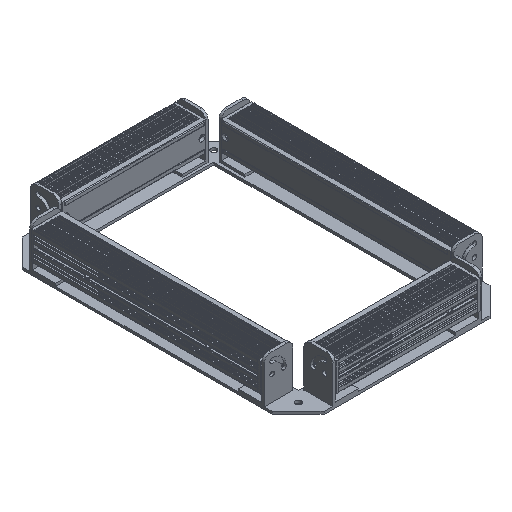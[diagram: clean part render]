
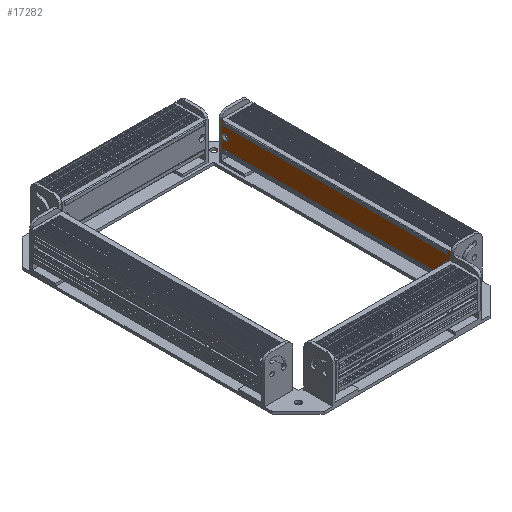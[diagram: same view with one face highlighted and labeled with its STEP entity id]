
A CAD part, isometric view. The second image highlights one B-rep face of the part: STEP entity #17282.
In plain terms, the highlighted planar face has unit normal (-1, 0, 0) as drawn and (0, 1, 0) by its records, which use the part's own axes.
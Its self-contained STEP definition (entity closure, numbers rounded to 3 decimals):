
#13322=DIRECTION('',(-1.,0.,0.));
#13323=VECTOR('',#13322,2.8);
#13324=CARTESIAN_POINT('',(-8.2,11.402,-86.5));
#13325=LINE('',#13324,#13323);
#13326=DIRECTION('',(0.,0.,1.));
#13327=VECTOR('',#13326,2.);
#13328=CARTESIAN_POINT('',(11.,11.402,-88.5));
#13329=LINE('',#13328,#13327);
#13330=DIRECTION('',(-1.,0.,0.));
#13331=VECTOR('',#13330,2.8);
#13332=CARTESIAN_POINT('',(11.,11.402,-86.5));
#13333=LINE('',#13332,#13331);
#13334=DIRECTION('',(0.,0.,-1.));
#13335=VECTOR('',#13334,2.);
#13336=CARTESIAN_POINT('',(-11.,11.402,88.5));
#13337=LINE('',#13336,#13335);
#13338=CARTESIAN_POINT('',(0.,11.402,-85.5));
#13339=DIRECTION('',(0.,1.,0.));
#13340=DIRECTION('',(-1.,0.,0.));
#13341=AXIS2_PLACEMENT_3D('',#13338,#13339,#13340);
#13343=CARTESIAN_POINT('',(0.,11.402,-85.5));
#13344=DIRECTION('',(0.,1.,0.));
#13345=DIRECTION('',(0.,0.,1.));
#13346=AXIS2_PLACEMENT_3D('',#13343,#13344,#13345);
#13348=CARTESIAN_POINT('',(0.,11.402,-85.5));
#13349=DIRECTION('',(0.,1.,0.));
#13350=DIRECTION('',(1.,0.,0.));
#13351=AXIS2_PLACEMENT_3D('',#13348,#13349,#13350);
#13353=CARTESIAN_POINT('',(0.,11.402,-85.5));
#13354=DIRECTION('',(0.,1.,0.));
#13355=DIRECTION('',(0.,0.,-1.));
#13356=AXIS2_PLACEMENT_3D('',#13353,#13354,#13355);
#13358=CARTESIAN_POINT('',(0.,11.402,85.5));
#13359=DIRECTION('',(0.,1.,0.));
#13360=DIRECTION('',(0.,0.,1.));
#13361=AXIS2_PLACEMENT_3D('',#13358,#13359,#13360);
#13363=CARTESIAN_POINT('',(0.,11.402,85.5));
#13364=DIRECTION('',(0.,1.,0.));
#13365=DIRECTION('',(0.,0.,-1.));
#13366=AXIS2_PLACEMENT_3D('',#13363,#13364,#13365);
#13368=DIRECTION('',(0.,0.,1.));
#13369=VECTOR('',#13368,173.);
#13370=CARTESIAN_POINT('',(-8.2,11.402,-86.5));
#13371=LINE('',#13370,#13369);
#13402=DIRECTION('',(-1.,0.,0.));
#13403=VECTOR('',#13402,2.8);
#13404=CARTESIAN_POINT('',(-8.2,11.402,86.5));
#13405=LINE('',#13404,#13403);
#13410=DIRECTION('',(0.,0.,1.));
#13411=VECTOR('',#13410,2.);
#13412=CARTESIAN_POINT('',(-11.,11.402,-88.5));
#13413=LINE('',#13412,#13411);
#13808=DIRECTION('',(1.,0.,0.));
#13809=VECTOR('',#13808,22.);
#13810=CARTESIAN_POINT('',(-11.,11.402,88.5));
#13811=LINE('',#13810,#13809);
#13880=DIRECTION('',(0.,0.,-1.));
#13881=VECTOR('',#13880,2.);
#13882=CARTESIAN_POINT('',(11.,11.402,88.5));
#13883=LINE('',#13882,#13881);
#13990=DIRECTION('',(-1.,0.,0.));
#13991=VECTOR('',#13990,2.8);
#13992=CARTESIAN_POINT('',(11.,11.402,86.5));
#13993=LINE('',#13992,#13991);
#14020=DIRECTION('',(0.,0.,-1.));
#14021=VECTOR('',#14020,173.);
#14022=CARTESIAN_POINT('',(8.2,11.402,86.5));
#14023=LINE('',#14022,#14021);
#14040=DIRECTION('',(-1.,0.,0.));
#14041=VECTOR('',#14040,22.);
#14042=CARTESIAN_POINT('',(11.,11.402,-88.5));
#14043=LINE('',#14042,#14041);
#16309=CARTESIAN_POINT('',(-8.2,11.402,-86.5));
#16310=CARTESIAN_POINT('',(-11.,11.402,-86.5));
#16311=VERTEX_POINT('',#16309);
#16312=VERTEX_POINT('',#16310);
#16323=CARTESIAN_POINT('',(11.,11.402,-86.5));
#16324=CARTESIAN_POINT('',(8.2,11.402,-86.5));
#16325=VERTEX_POINT('',#16323);
#16326=VERTEX_POINT('',#16324);
#16337=CARTESIAN_POINT('',(-8.2,11.402,86.5));
#16338=VERTEX_POINT('',#16337);
#16339=CARTESIAN_POINT('',(-11.,11.402,-88.5));
#16340=VERTEX_POINT('',#16339);
#16341=CARTESIAN_POINT('',(11.,11.402,-88.5));
#16342=VERTEX_POINT('',#16341);
#16343=CARTESIAN_POINT('',(8.2,11.402,86.5));
#16344=VERTEX_POINT('',#16343);
#16345=CARTESIAN_POINT('',(11.,11.402,86.5));
#16346=VERTEX_POINT('',#16345);
#16347=CARTESIAN_POINT('',(11.,11.402,88.5));
#16348=VERTEX_POINT('',#16347);
#16349=CARTESIAN_POINT('',(-11.,11.402,88.5));
#16350=VERTEX_POINT('',#16349);
#16351=CARTESIAN_POINT('',(-11.,11.402,86.5));
#16352=VERTEX_POINT('',#16351);
#16353=CARTESIAN_POINT('',(0.,11.402,-83.1));
#16354=CARTESIAN_POINT('',(2.4,11.402,-85.5));
#16355=VERTEX_POINT('',#16353);
#16356=VERTEX_POINT('',#16354);
#16357=CARTESIAN_POINT('',(-2.4,11.402,-85.5));
#16358=VERTEX_POINT('',#16357);
#16359=CARTESIAN_POINT('',(0.,11.402,-87.9));
#16360=VERTEX_POINT('',#16359);
#16361=CARTESIAN_POINT('',(0.,11.402,87.9));
#16362=CARTESIAN_POINT('',(0.,11.402,83.1));
#16363=VERTEX_POINT('',#16361);
#16364=VERTEX_POINT('',#16362);
#17236=CARTESIAN_POINT('',(8.2,11.402,-86.5));
#17237=DIRECTION('',(0.,1.,0.));
#17238=DIRECTION('',(-1.,0.,0.));
#17239=AXIS2_PLACEMENT_3D('',#17236,#17237,#17238);
#17240=PLANE('',#17239);
#17242=ORIENTED_EDGE('',*,*,#17241,.F.);
#17243=ORIENTED_EDGE('',*,*,#17219,.T.);
#17245=ORIENTED_EDGE('',*,*,#17244,.F.);
#17247=ORIENTED_EDGE('',*,*,#17246,.F.);
#17249=ORIENTED_EDGE('',*,*,#17248,.T.);
#17251=ORIENTED_EDGE('',*,*,#17250,.T.);
#17253=ORIENTED_EDGE('',*,*,#17252,.F.);
#17255=ORIENTED_EDGE('',*,*,#17254,.F.);
#17257=ORIENTED_EDGE('',*,*,#17256,.F.);
#17259=ORIENTED_EDGE('',*,*,#17258,.F.);
#17261=ORIENTED_EDGE('',*,*,#17260,.T.);
#17263=ORIENTED_EDGE('',*,*,#17262,.F.);
#17264=EDGE_LOOP('',(#17242,#17243,#17245,#17247,#17249,#17251,#17253,#17255,
#17257,#17259,#17261,#17263));
#17265=FACE_OUTER_BOUND('',#17264,.F.);
#17267=ORIENTED_EDGE('',*,*,#17266,.T.);
#17269=ORIENTED_EDGE('',*,*,#17268,.T.);
#17271=ORIENTED_EDGE('',*,*,#17270,.T.);
#17273=ORIENTED_EDGE('',*,*,#17272,.T.);
#17274=EDGE_LOOP('',(#17267,#17269,#17271,#17273));
#17275=FACE_BOUND('',#17274,.F.);
#17277=ORIENTED_EDGE('',*,*,#17276,.T.);
#17279=ORIENTED_EDGE('',*,*,#17278,.T.);
#17280=EDGE_LOOP('',(#17277,#17279));
#17281=FACE_BOUND('',#17280,.F.);
#13342=CIRCLE('',#13341,2.4);
#13347=CIRCLE('',#13346,2.4);
#13352=CIRCLE('',#13351,2.4);
#13357=CIRCLE('',#13356,2.4);
#13362=CIRCLE('',#13361,2.4);
#13367=CIRCLE('',#13366,2.4);
#17219=EDGE_CURVE('',#16311,#16312,#13325,.T.);
#17241=EDGE_CURVE('',#16311,#16338,#13371,.T.);
#17244=EDGE_CURVE('',#16340,#16312,#13413,.T.);
#17246=EDGE_CURVE('',#16342,#16340,#14043,.T.);
#17248=EDGE_CURVE('',#16342,#16325,#13329,.T.);
#17250=EDGE_CURVE('',#16325,#16326,#13333,.T.);
#17252=EDGE_CURVE('',#16344,#16326,#14023,.T.);
#17254=EDGE_CURVE('',#16346,#16344,#13993,.T.);
#17256=EDGE_CURVE('',#16348,#16346,#13883,.T.);
#17258=EDGE_CURVE('',#16350,#16348,#13811,.T.);
#17260=EDGE_CURVE('',#16350,#16352,#13337,.T.);
#17262=EDGE_CURVE('',#16338,#16352,#13405,.T.);
#17266=EDGE_CURVE('',#16358,#16355,#13342,.T.);
#17268=EDGE_CURVE('',#16355,#16356,#13347,.T.);
#17270=EDGE_CURVE('',#16356,#16360,#13352,.T.);
#17272=EDGE_CURVE('',#16360,#16358,#13357,.T.);
#17276=EDGE_CURVE('',#16363,#16364,#13362,.T.);
#17278=EDGE_CURVE('',#16364,#16363,#13367,.T.);
#17282=ADVANCED_FACE('',(#17265,#17275,#17281),#17240,.T.);
